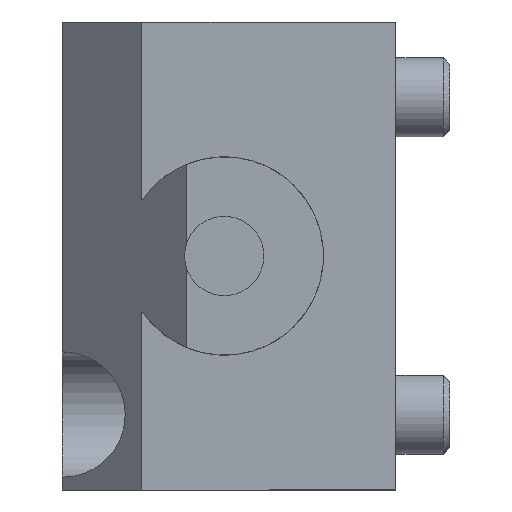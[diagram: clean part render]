
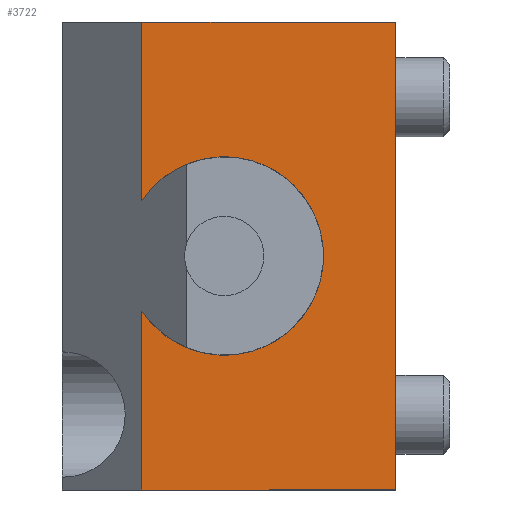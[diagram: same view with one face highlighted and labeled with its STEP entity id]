
A CAD part, left-side view. The second image highlights one B-rep face of the part: STEP entity #3722.
In plain terms, the highlighted planar face has unit normal (-1, 0, 0).
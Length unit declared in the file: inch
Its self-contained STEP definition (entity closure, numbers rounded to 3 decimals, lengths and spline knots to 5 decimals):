
#29 = CARTESIAN_POINT ( 'NONE',  ( -0.85, 0.51, 0.7375 ) ) ;
#132 = CARTESIAN_POINT ( 'NONE',  ( -0.85, 0., 0. ) ) ;
#165 = VERTEX_POINT ( 'NONE', #3017 ) ;
#168 = CARTESIAN_POINT ( 'NONE',  ( -0.85, 0.26, -0.7375 ) ) ;
#273 = ORIENTED_EDGE ( 'NONE', *, *, #2193, .T. ) ;
#286 = VERTEX_POINT ( 'NONE', #2024 ) ;
#312 = DIRECTION ( 'NONE',  ( 0., 0., 1. ) ) ;
#338 = LINE ( 'NONE', #29, #4581 ) ;
#363 = LINE ( 'NONE', #428, #3732 ) ;
#428 = CARTESIAN_POINT ( 'NONE',  ( -0.85, -0.54, -0.7375 ) ) ;
#563 = EDGE_CURVE ( 'NONE', #286, #1796, #2781, .T. ) ;
#742 = VERTEX_POINT ( 'NONE', #4672 ) ;
#869 = EDGE_CURVE ( 'NONE', #286, #742, #4777, .T. ) ;
#975 = EDGE_CURVE ( 'NONE', #4563, #3848, #338, .T. ) ;
#1228 = VECTOR ( 'NONE', #1660, 39.37008 ) ;
#1291 = VECTOR ( 'NONE', #312, 39.37008 ) ;
#1402 = CARTESIAN_POINT ( 'NONE',  ( -0.85, 0.26, -0.7375 ) ) ;
#1474 = DIRECTION ( 'NONE',  ( 0., 0., 1. ) ) ;
#1526 = PLANE ( 'NONE',  #2353 ) ;
#1559 = DIRECTION ( 'NONE',  ( 0., -1., 0. ) ) ;
#1618 = AXIS2_PLACEMENT_3D ( 'NONE', #132, #2394, #1950 ) ;
#1648 = ORIENTED_EDGE ( 'NONE', *, *, #2551, .F. ) ;
#1660 = DIRECTION ( 'NONE',  ( 0., 0., 1. ) ) ;
#1699 = EDGE_CURVE ( 'NONE', #742, #165, #3719, .T. ) ;
#1796 = VERTEX_POINT ( 'NONE', #4265 ) ;
#1889 = DIRECTION ( 'NONE',  ( -1., 0., 0. ) ) ;
#1950 = DIRECTION ( 'NONE',  ( 0., -1., 0. ) ) ;
#2024 = CARTESIAN_POINT ( 'NONE',  ( -0.85, 0.26, -0.7375 ) ) ;
#2080 = ORIENTED_EDGE ( 'NONE', *, *, #975, .T. ) ;
#2150 = ORIENTED_EDGE ( 'NONE', *, *, #1699, .F. ) ;
#2193 = EDGE_CURVE ( 'NONE', #1796, #4563, #363, .T. ) ;
#2340 = DIRECTION ( 'NONE',  ( 0., -1., 0. ) ) ;
#2353 = AXIS2_PLACEMENT_3D ( 'NONE', #4137, #1889, #1559 ) ;
#2394 = DIRECTION ( 'NONE',  ( -1., 0., 0. ) ) ;
#2551 = EDGE_CURVE ( 'NONE', #165, #3848, #4680, .T. ) ;
#2781 = LINE ( 'NONE', #4619, #4505 ) ;
#3003 = DIRECTION ( 'NONE',  ( 0., 1., 0. ) ) ;
#3017 = CARTESIAN_POINT ( 'NONE',  ( -0.85, 0.26, 0.17337 ) ) ;
#3303 = ORIENTED_EDGE ( 'NONE', *, *, #563, .T. ) ;
#3719 = CIRCLE ( 'NONE', #1618, 0.3125 ) ;
#3722 = ADVANCED_FACE ( 'NONE', ( #3758 ), #1526, .T. ) ;
#3732 = VECTOR ( 'NONE', #1474, 39.37008 ) ;
#3758 = FACE_OUTER_BOUND ( 'NONE', #3979, .T. ) ;
#3848 = VERTEX_POINT ( 'NONE', #4476 ) ;
#3979 = EDGE_LOOP ( 'NONE', ( #4466, #3303, #273, #2080, #1648, #2150 ) ) ;
#4038 = CARTESIAN_POINT ( 'NONE',  ( -0.85, -0.54, 0.7375 ) ) ;
#4137 = CARTESIAN_POINT ( 'NONE',  ( -0.85, -0.54, -0.7375 ) ) ;
#4265 = CARTESIAN_POINT ( 'NONE',  ( -0.85, -0.54, -0.7375 ) ) ;
#4466 = ORIENTED_EDGE ( 'NONE', *, *, #869, .F. ) ;
#4476 = CARTESIAN_POINT ( 'NONE',  ( -0.85, 0.26, 0.7375 ) ) ;
#4505 = VECTOR ( 'NONE', #2340, 39.37008 ) ;
#4563 = VERTEX_POINT ( 'NONE', #4038 ) ;
#4581 = VECTOR ( 'NONE', #3003, 39.37008 ) ;
#4619 = CARTESIAN_POINT ( 'NONE',  ( -0.85, 0.51, -0.7375 ) ) ;
#4672 = CARTESIAN_POINT ( 'NONE',  ( -0.85, 0.26, -0.17337 ) ) ;
#4680 = LINE ( 'NONE', #168, #1228 ) ;
#4777 = LINE ( 'NONE', #1402, #1291 ) ;
